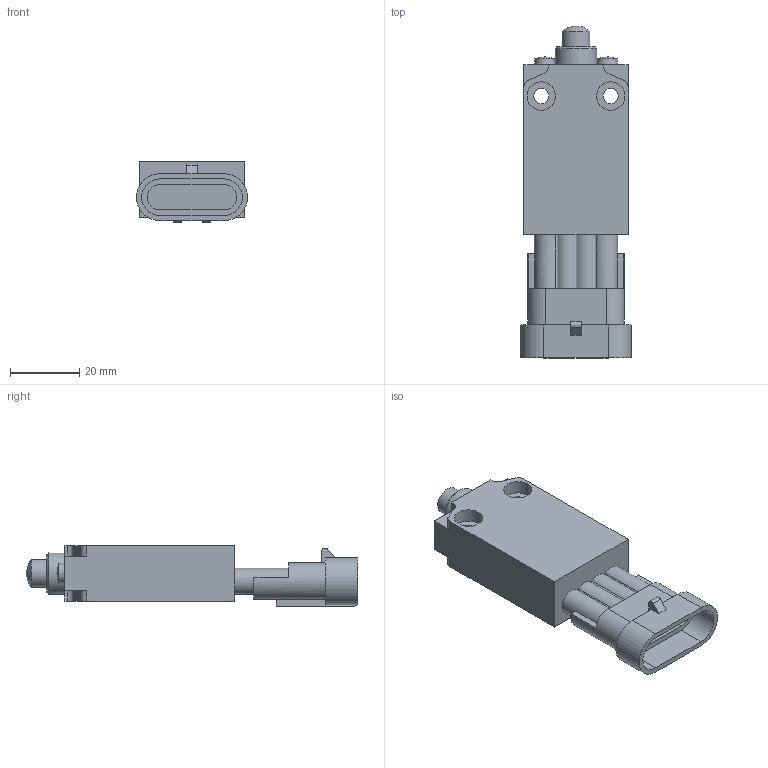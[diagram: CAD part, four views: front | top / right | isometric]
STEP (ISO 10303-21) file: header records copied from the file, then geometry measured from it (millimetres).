
FILE_DESCRIPTION(/* description */ (''),/* implementation_level */ '2;1');
FILE_NAME(/* name */ 'C:\Users\servizio.tecnico\Desktop\CADENAS\3D\EP1_STP\STP_EP1_G11A.stp',/* time_stamp */ '2017-09-04T09:33:39+02:00',/* author */ ('servizio.tecnico'),/* organization */ (''),/* preprocessor_version */ 'ST-DEVELOPER v16.1',/* originating_system */ 'Autodesk Inventor 2016',/* authorisation */ '');
FILE_SCHEMA (('AUTOMOTIVE_DESIGN { 1 0 10303 214 3 1 1 }'));
Length unit declared in the file: millimetre
Products named in the file (3): Product; EP1G11-A; BASE ASSI 
Assembly tree (2 placements, depth 3):
  BASE ASSI 
    EP1G11-A
      Product
Bounding box: 32 x 95.7 x 17.5 mm (x, y, z)
Volume: 29008.3 mm3; surface area: 11749.1 mm2
Topology: 3 solids, 3 shells, 143 faces, 376 edges, 245 vertices
Faces by surface type: plane 85, cylinder 46, cone 7, sphere 3, torus 2
Full cylindrical faces by diameter (mm): 4.4 x2, 7.95 x1, 8.05 x1, 8.2 x4, 12 x1
Entity records: 4423 total; most frequent: DIRECTION 754, CARTESIAN_POINT 750, ORIENTED_EDGE 700, EDGE_CURVE 350, AXIS2_PLACEMENT_3D 264, VERTEX_POINT 236, LINE 226, VECTOR 226
